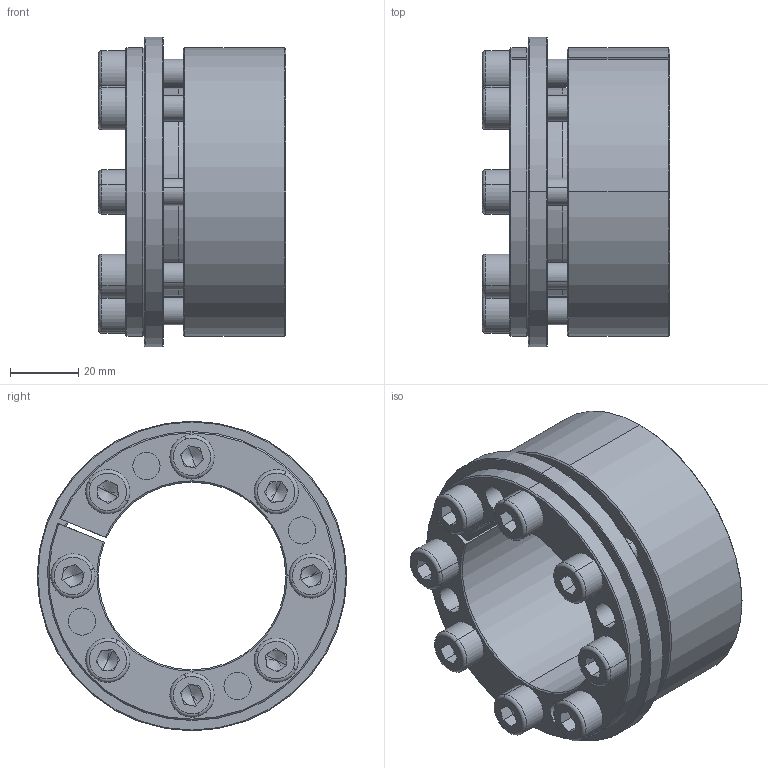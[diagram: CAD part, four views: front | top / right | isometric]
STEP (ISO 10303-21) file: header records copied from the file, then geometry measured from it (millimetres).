
FILE_DESCRIPTION (( 'STEP AP214' ), '1' );
FILE_NAME ('H5×°ÅäÌå55-85.STEP', '2022-07-26T02:24:18', ( '' ), ( '' ), 'SwSTEP 2.0', 'SolidWorks 2022', '' );
FILE_SCHEMA (( 'AUTOMOTIVE_DESIGN' ));
Length unit declared in the file: millimetre
Products named in the file (1): H5蚾饜极55-85
Bounding box: 55 x 91 x 91 mm (x, y, z)
Volume: 140472.6 mm3; surface area: 50207.8 mm2
Topology: 1 solids, 1 shells, 313 faces, 777 edges, 474 vertices
Faces by surface type: plane 130, cylinder 91, cone 76, torus 16
Entity records: 9316 total; most frequent: DIRECTION 1736, CARTESIAN_POINT 1621, ORIENTED_EDGE 1522, EDGE_CURVE 761, AXIS2_PLACEMENT_3D 685, VERTEX_POINT 474, CIRCLE 371, VECTOR 366
